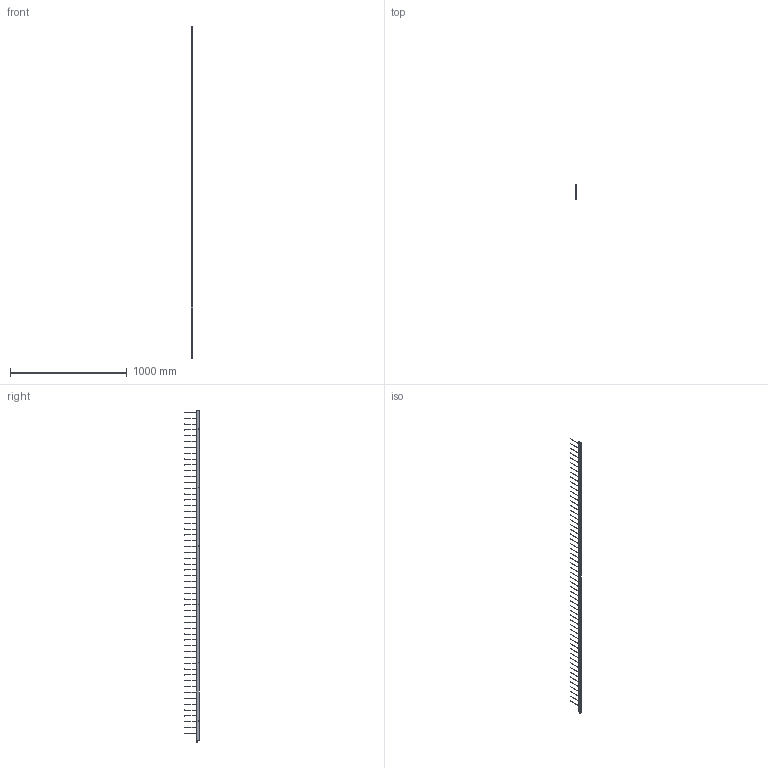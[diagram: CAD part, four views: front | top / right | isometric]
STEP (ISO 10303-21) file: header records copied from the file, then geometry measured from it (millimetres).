
FILE_DESCRIPTION (( 'STEP AP203' ), '1' );
FILE_NAME ('CSL505-RxTx50-2750-M8.STEP', '2016-02-15T11:30:08', ( '' ), ( '' ), 'SwSTEP 2.0', 'SolidWorks 2015', '' );
FILE_SCHEMA (( 'CONFIG_CONTROL_DESIGN' ));
Length unit declared in the file: millimetre
Products named in the file (2): CSL505-RxTx50-2750-M8
Bounding box: 10 x 125.2 x 2844 mm (x, y, z)
Volume: 788916.1 mm3; surface area: 267714.9 mm2
Topology: 1 solids, 1 shells, 322 faces, 748 edges, 486 vertices
Faces by surface type: cylinder 160, plane 150, cone 12
Entity records: 9417 total; most frequent: DIRECTION 1726, CARTESIAN_POINT 1558, ORIENTED_EDGE 1496, EDGE_CURVE 748, AXIS2_PLACEMENT_3D 654, VERTEX_POINT 486, VECTOR 418, LINE 418
